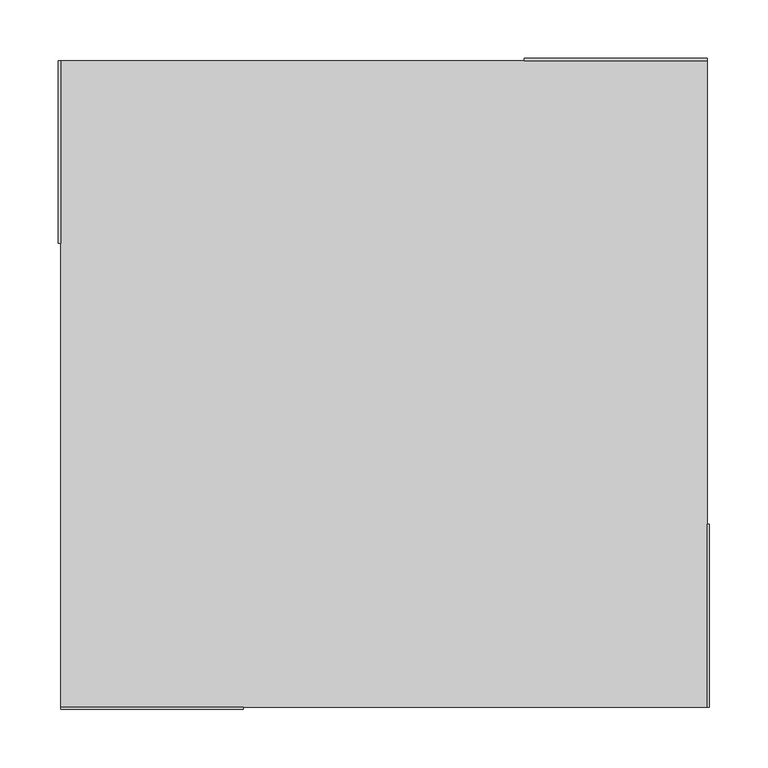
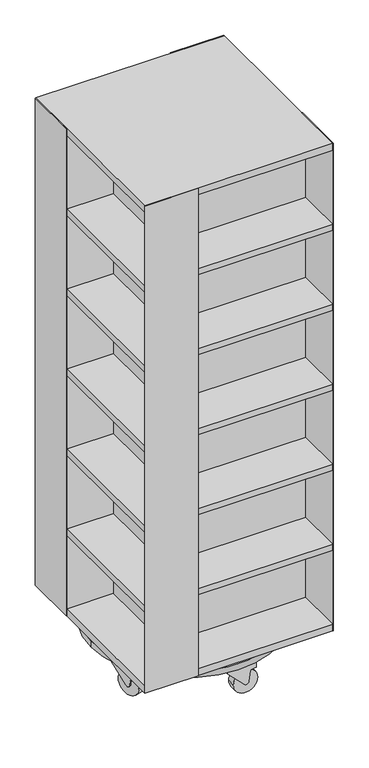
"""IFC4 building model written with IfcOpenShell, lengths in millimetres: furniture geometry, BK Library - Astrid : BK Library - Astrid."""

from ifc_helpers import new_model, si_unit, point, frame, frame_2d, origin, origin_2d, place, context, project, spatial, polyline, circle_curve, trimmed, segment, composite_curve, outline, extrude, source, transform, mapped, element, save


def furniture_fe416c3a(model_context):
    return source(origin(), model_context, "Body", "SweptSolid", [
        extrude(outline(composite_curve([segment(trimmed(circle_curve(origin_2d(), 152.516398), [point((-152.516398, 0.0))], [point((152.516398, 0.0))], False, "CARTESIAN"), True, "CONTINUOUS"), segment(trimmed(circle_curve(origin_2d(), 152.516398), [point((152.516398, 0.0))], [point((-152.516398, 0.0))], False, "CARTESIAN"), True, "CONTINUOUS")], self_intersect=False)), frame((0.0, 0.0, 116.0), z_axis=(0.0, 0.0, 1.0), x_axis=(1.0, 0.0, 0.0)), (0.0, 0.0, 1.0), 9.0),
        extrude(outline(composite_curve([segment(trimmed(circle_curve(frame_2d((228.1998061, -74.1779219)), 12.5248147), [point((224.3294255, -86.0897285))], [point((232.0701867, -62.2661152))], False, "CARTESIAN"), True, "CONTINUOUS"), segment(trimmed(circle_curve(frame_2d((228.1998061, -74.1779219)), 12.5248147), [point((232.0701867, -62.2661152))], [point((224.3294255, -86.0897285))], False, "CARTESIAN"), True, "CONTINUOUS")], self_intersect=False)), frame((0.0, 0.0, 87.7), z_axis=(0.0, 0.0, 1.0), x_axis=(1.0, 0.0, 0.0)), (0.0, 0.0, 1.0), 9.3),
        extrude(outline(composite_curve([segment(polyline([(0.0, -4.0), (-15.534626, -4.0), (-15.534626, 82.4985133), (-7.8331448, 82.4985133), (42.8326001, 31.6464633)]), True, "CONTINUOUS"), segment(trimmed(circle_curve(frame_2d((37.165374, 26.0)), 8.0), [point((42.8326001, 31.6464633))], [point((38.2375371, 18.0721714))], False, "CARTESIAN"), True, "CONTINUOUS"), segment(polyline([(38.2375371, 18.0721714), (6.2199498, 13.7420986)]), True, "CONTINUOUS"), segment(trimmed(circle_curve(frame_2d((6.4879906, 11.7601414)), 2.0), [point((6.2199498, 13.7420986))], [point((4.5183751, 12.1074378))], True, "CARTESIAN"), True, "CONTINUOUS"), segment(polyline([(4.5183751, 12.1074378), (1.9696155, -2.3472964)]), True, "CONTINUOUS"), segment(trimmed(circle_curve(frame_2d((0.0, -2.0)), 2.0), [point((1.9696155, -2.3472964))], [point((0.0, -4.0))], False, "CARTESIAN"), True, "CONTINUOUS")], self_intersect=False)), frame((262.2837087, -21.2071499, 72.665374), z_axis=(-0.9510565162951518, 0.3090169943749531, 0.0), x_axis=(0.0, 0.0, -1.0)), (0.0, 0.0, 1.0), 32.0),
        extrude(outline(composite_curve([segment(trimmed(circle_curve(frame_2d((0.0, -35.6947524)), 35.6947525), [point((0.0, -71.389505))], [point((0.0, 0.0))], False, "CARTESIAN"), True, "CONTINUOUS"), segment(trimmed(circle_curve(frame_2d((0.0, -35.6947524)), 35.6947525), [point((0.0, 0.0))], [point((0.0, -71.389505))], False, "CARTESIAN"), True, "CONTINUOUS")], self_intersect=False)), frame((239.446761, -78.5477759, 35.6872146), z_axis=(-0.9510565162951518, 0.3090169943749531, 0.0), x_axis=(0.0, 0.0, -1.0)), (0.0, 0.0, 1.0), 24.0),
        extrude(outline(composite_curve([segment(trimmed(circle_curve(frame_2d((141.0650141, 194.1086741)), 12.5248147), [point((151.1978021, 186.7467727))], [point((130.9322262, 201.4705755))], False, "CARTESIAN"), True, "CONTINUOUS"), segment(trimmed(circle_curve(frame_2d((141.0650141, 194.1086741)), 12.5248147), [point((130.9322262, 201.4705755))], [point((151.1978021, 186.7467727))], False, "CARTESIAN"), True, "CONTINUOUS")], self_intersect=False)), frame((0.0, 0.0, 87.7), z_axis=(0.0, 0.0, 1.0), x_axis=(1.0, 0.0, 0.0)), (0.0, 0.0, 1.0), 9.3),
        extrude(outline(composite_curve([segment(trimmed(circle_curve(frame_2d((0.0, -2.0)), 2.0), [point((0.0, -4.0))], [point((-1.9696155, -2.3472964))], False, "CARTESIAN"), True, "CONTINUOUS"), segment(polyline([(-1.9696155, -2.3472964), (-4.5183751, 12.1074377)]), True, "CONTINUOUS"), segment(trimmed(circle_curve(frame_2d((-6.4879906, 11.7601414)), 2.0), [point((-4.5183751, 12.1074377))], [point((-6.2199498, 13.7420985))], True, "CARTESIAN"), True, "CONTINUOUS"), segment(polyline([(-6.2199498, 13.7420985), (-38.2375371, 18.0721714)]), True, "CONTINUOUS"), segment(trimmed(circle_curve(frame_2d((-37.165374, 25.9999999)), 8.0), [point((-38.2375371, 18.0721714))], [point((-42.8326001, 31.6464633))], False, "CARTESIAN"), True, "CONTINUOUS"), segment(polyline([(-42.8326001, 31.6464633), (7.8331448, 82.4985133), (15.534626, 82.4985133), (15.534626, -4.0), (0.0, -4.0)]), True, "CONTINUOUS")], self_intersect=False)), frame((82.4101934, 217.0047167, 72.665374), z_axis=(0.5877852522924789, 0.8090169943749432, 0.0), x_axis=(0.0, 0.0, 1.0)), (0.0, 0.0, 1.0), 32.0),
        extrude(outline(composite_curve([segment(trimmed(circle_curve(frame_2d((0.0, -35.6947525)), 35.6947525), [point((0.0, -71.3895049))], [point((0.0, 0.0))], False, "CARTESIAN"), True, "CONTINUOUS"), segment(trimmed(circle_curve(frame_2d((0.0, -35.6947525)), 35.6947525), [point((0.0, 0.0))], [point((0.0, -71.3895049))], False, "CARTESIAN"), True, "CONTINUOUS")], self_intersect=False)), frame((134.5896465, 184.0383969, 35.6872146), z_axis=(0.5877852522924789, 0.8090169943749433, 0.0), x_axis=(0.0, 0.0, 1.0)), (0.0, 0.0, 1.0), 24.0),
        extrude(outline(composite_curve([segment(trimmed(circle_curve(frame_2d((-141.0168327, 194.14368)), 12.5248147), [point((-130.8840447, 201.5055814))], [point((-151.1496207, 186.7817786))], False, "CARTESIAN"), True, "CONTINUOUS"), segment(trimmed(circle_curve(frame_2d((-141.0168327, 194.14368)), 12.5248147), [point((-151.1496207, 186.7817786))], [point((-130.8840447, 201.5055814))], False, "CARTESIAN"), True, "CONTINUOUS")], self_intersect=False)), frame((0.0, 0.0, 87.7), z_axis=(0.0, 0.0, 1.0), x_axis=(1.0, 0.0, 0.0)), (0.0, 0.0, 1.0), 9.3),
        extrude(outline(composite_curve([segment(trimmed(circle_curve(frame_2d((0.0, -1.9999999)), 2.0), [point((0.0, -3.9999999))], [point((-1.9696155, -2.3472963))], False, "CARTESIAN"), True, "CONTINUOUS"), segment(polyline([(-1.9696155, -2.3472963), (-4.5183751, 12.1074379)]), True, "CONTINUOUS"), segment(trimmed(circle_curve(frame_2d((-6.4879906, 11.7601415)), 2.0), [point((-4.5183751, 12.1074379))], [point((-6.2199498, 13.7420986))], True, "CARTESIAN"), True, "CONTINUOUS"), segment(polyline([(-6.2199498, 13.7420986), (-38.2375371, 18.0721715)]), True, "CONTINUOUS"), segment(trimmed(circle_curve(frame_2d((-37.165374, 26.0000001)), 8.0), [point((-38.2375371, 18.0721715))], [point((-42.8326001, 31.6464634))], False, "CARTESIAN"), True, "CONTINUOUS"), segment(polyline([(-42.8326001, 31.6464634), (7.8331448, 82.4985134), (15.534626, 82.4985134), (15.534626, -3.9999999), (0.0, -3.9999999)]), True, "CONTINUOUS")], self_intersect=False)), frame((-180.9175997, 145.4348967, 72.665374), z_axis=(-0.5877852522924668, 0.8090169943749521, 0.0), x_axis=(0.0, 0.0, 1.0)), (0.0, 0.0, 1.0), 32.0),
        extrude(outline(composite_curve([segment(trimmed(circle_curve(frame_2d((0.0, -35.6947524)), 35.6947525), [point((0.0, -71.3895049))], [point((0.0, 0.0))], False, "CARTESIAN"), True, "CONTINUOUS"), segment(trimmed(circle_curve(frame_2d((0.0, -35.6947524)), 35.6947525), [point((0.0, 0.0))], [point((0.0, -71.3895049))], False, "CARTESIAN"), True, "CONTINUOUS")], self_intersect=False)), frame((-133.4404286, 184.8733526, 35.6872146), z_axis=(-0.5877852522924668, 0.8090169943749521, 0.0), x_axis=(0.0, 0.0, 1.0)), (0.0, 0.0, 1.0), 24.0),
        extrude(outline(composite_curve([segment(trimmed(circle_curve(frame_2d((-228.2182097, -74.1212812)), 12.5248147), [point((-232.0885903, -62.2094745))], [point((-224.3478291, -86.0330878))], False, "CARTESIAN"), True, "CONTINUOUS"), segment(trimmed(circle_curve(frame_2d((-228.2182097, -74.1212812)), 12.5248147), [point((-224.3478291, -86.0330878))], [point((-232.0885903, -62.2094745))], False, "CARTESIAN"), True, "CONTINUOUS")], self_intersect=False)), frame((0.0, 0.0, 87.7), z_axis=(0.0, 0.0, 1.0), x_axis=(1.0, 0.0, 0.0)), (0.0, 0.0, 1.0), 9.3),
        extrude(outline(composite_curve([segment(polyline([(0.0, -4.0), (-15.534626, -4.0), (-15.534626, 82.4985134), (-7.8331448, 82.4985134), (42.8326001, 31.6464633)]), True, "CONTINUOUS"), segment(trimmed(circle_curve(frame_2d((37.165374, 26.0)), 8.0), [point((42.8326001, 31.6464633))], [point((38.2375371, 18.0721714))], False, "CARTESIAN"), True, "CONTINUOUS"), segment(polyline([(38.2375371, 18.0721714), (6.2199498, 13.7420986)]), True, "CONTINUOUS"), segment(trimmed(circle_curve(frame_2d((6.4879906, 11.7601414)), 2.0), [point((6.2199498, 13.7420986))], [point((4.5183751, 12.1074378))], True, "CARTESIAN"), True, "CONTINUOUS"), segment(polyline([(4.5183751, 12.1074378), (1.9696155, -2.3472963)]), True, "CONTINUOUS"), segment(trimmed(circle_curve(frame_2d((0.0, -1.9999999)), 2.0), [point((1.9696155, -2.3472963))], [point((0.0, -4.0))], False, "CARTESIAN"), True, "CONTINUOUS")], self_intersect=False)), frame((-224.6572276, -137.0095512, 72.665374), z_axis=(0.9510565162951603, 0.3090169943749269, 0.0), x_axis=(0.0, 0.0, -1.0)), (0.0, 0.0, 1.0), 32.0),
        extrude(outline(composite_curve([segment(trimmed(circle_curve(frame_2d((0.0, -35.6947524)), 35.6947525), [point((0.0, -71.3895049))], [point((0.0, 0.0))], False, "CARTESIAN"), True, "CONTINUOUS"), segment(trimmed(circle_curve(frame_2d((0.0, -35.6947524)), 35.6947525), [point((0.0, 0.0))], [point((0.0, -71.3895049))], False, "CARTESIAN"), True, "CONTINUOUS")], self_intersect=False)), frame((-239.8857232, -77.1967893, 35.6872146), z_axis=(0.9510565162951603, 0.30901699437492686, 0.0), x_axis=(0.0, 0.0, -1.0)), (0.0, 0.0, 1.0), 24.0),
        extrude(outline(composite_curve([segment(trimmed(circle_curve(origin_2d(), 275.0), [point((-275.0, 0.0))], [point((275.0, 0.0))], False, "CARTESIAN"), True, "CONTINUOUS"), segment(trimmed(circle_curve(origin_2d(), 275.0), [point((275.0, 0.0))], [point((-275.0, 0.0))], False, "CARTESIAN"), True, "CONTINUOUS")], self_intersect=False)), frame((0.0, 0.0, 97.0075378), z_axis=(0.0, 0.0, 1.0), x_axis=(1.0, 0.0, 0.0)), (0.0, 0.0, 1.0), 18.9924622),
        extrude(outline(polyline([(-279.5, 120.5), (-279.5, 277.5), (-277.5, 277.5), (-277.5, 120.5), (-279.5, 120.5)])), frame((0.0, 0.0, 123.0), z_axis=(0.0, 0.0, 1.0), x_axis=(1.0, 0.0, 0.0)), (0.0, 0.0, 1.0), 1520.0),
        extrude(outline(polyline([(120.5, 279.5), (277.5, 279.5), (277.5, 277.5), (120.5, 277.5), (120.5, 279.5)])), frame((0.0, 0.0, 123.0), z_axis=(0.0, 0.0, 1.0), x_axis=(1.0, 0.0, 0.0)), (0.0, 0.0, 1.0), 1520.0),
        extrude(outline(polyline([(279.5, -120.5), (279.5, -277.5), (277.5, -277.5), (277.5, -120.5), (279.5, -120.5)])), frame((0.0, 0.0, 123.0), z_axis=(0.0, 0.0, 1.0), x_axis=(1.0, 0.0, 0.0)), (0.0, 0.0, 1.0), 1520.0),
        extrude(outline(polyline([(-120.5, -279.5), (-277.5, -279.5), (-277.5, -277.5), (-120.5, -277.5), (-120.5, -279.5)])), frame((0.0, 0.0, 123.0), z_axis=(0.0, 0.0, 1.0), x_axis=(1.0, 0.0, 0.0)), (0.0, 0.0, 1.0), 1520.0),
        extrude(outline(polyline([(-275.5, 139.5), (120.5, 139.5), (120.5, 275.5), (139.5, 275.5), (139.5, -120.5), (275.5, -120.5), (275.5, -139.5), (-120.5, -139.5), (-120.5, -275.5), (-139.5, -275.5), (-139.5, 120.5), (-275.5, 120.5), (-275.5, 139.5)])), frame((0.0, 0.0, 144.0), z_axis=(0.0, 0.0, 1.0), x_axis=(1.0, 0.0, 0.0)), (0.0, 0.0, 1.0), 1478.0),
        extrude(outline(composite_curve([segment(trimmed(circle_curve(frame_2d((-0.0297778, -239.953151)), 12.5248147), [point((-12.5545925, -239.953151))], [point((12.4950369, -239.953151))], False, "CARTESIAN"), True, "CONTINUOUS"), segment(trimmed(circle_curve(frame_2d((-0.0297778, -239.953151)), 12.5248147), [point((12.4950369, -239.953151))], [point((-12.5545925, -239.953151))], False, "CARTESIAN"), True, "CONTINUOUS")], self_intersect=False)), frame((0.0, 0.0, 87.7), z_axis=(0.0, 0.0, 1.0), x_axis=(1.0, 0.0, 0.0)), (0.0, 0.0, 1.0), 9.3),
        extrude(outline(composite_curve([segment(polyline([(72.665374, 64.8809252), (88.2, 64.8809252), (88.2, -21.6175881), (80.4985188, -21.6175881), (29.8327739, 29.2344619)]), True, "CONTINUOUS"), segment(trimmed(circle_curve(frame_2d((35.5, 34.8809252)), 8.0), [point((29.8327739, 29.2344619))], [point((34.4278369, 42.8087538))], False, "CARTESIAN"), True, "CONTINUOUS"), segment(polyline([(34.4278369, 42.8087538), (66.4454242, 47.1388267)]), True, "CONTINUOUS"), segment(trimmed(circle_curve(frame_2d((66.1773834, 49.1207838)), 2.0), [point((66.4454242, 47.1388267))], [point((68.1469989, 48.7734874))], True, "CARTESIAN"), True, "CONTINUOUS"), segment(polyline([(68.1469989, 48.7734874), (70.6957585, 63.2282216)]), True, "CONTINUOUS"), segment(trimmed(circle_curve(frame_2d((72.665374, 62.8809252)), 2.0), [point((70.6957585, 63.2282216))], [point((72.665374, 64.8809252))], False, "CARTESIAN"), True, "CONTINUOUS")], self_intersect=False)), frame((0.0, -256.0, 0.0), z_axis=(0.0, 1.0, 0.0), x_axis=(0.0, 0.0, 1.0)), (0.0, 0.0, 1.0), 32.0),
        extrude(outline(composite_curve([segment(trimmed(circle_curve(frame_2d((35.6872146, 34.9844968)), 35.6947525), [point((35.6872146, 70.6792492))], [point((35.6872146, -0.7102557))], False, "CARTESIAN"), True, "CONTINUOUS"), segment(trimmed(circle_curve(frame_2d((35.6872146, 34.9844968)), 35.6947525), [point((35.6872146, -0.7102557))], [point((35.6872146, 70.6792492))], False, "CARTESIAN"), True, "CONTINUOUS")], self_intersect=False)), frame((0.0, -252.0, 0.0), z_axis=(0.0, 1.0, 0.0), x_axis=(0.0, 0.0, 1.0)), (0.0, 0.0, 1.0), 24.0),
        extrude(outline(polyline([(277.5, 277.5), (277.5, -277.5), (-277.5, -277.5), (-277.5, 277.5), (277.5, 277.5)])), frame((0.0, 0.0, 1123.0), z_axis=(0.0, 0.0, 1.0), x_axis=(1.0, 0.0, 0.0)), (0.0, 0.0, 1.0), 19.0),
        extrude(outline(polyline([(277.5, 277.5), (277.5, -277.5), (-277.5, -277.5), (-277.5, 277.5), (277.5, 277.5)])), frame((0.0, 0.0, 873.5), z_axis=(0.0, 0.0, 1.0), x_axis=(1.0, 0.0, 0.0)), (0.0, 0.0, 1.0), 19.0),
        extrude(outline(polyline([(277.5, 277.5), (277.5, -277.5), (-277.5, -277.5), (-277.5, 277.5), (277.5, 277.5)])), frame((0.0, 0.0, 374.5), z_axis=(0.0, 0.0, 1.0), x_axis=(1.0, 0.0, 0.0)), (0.0, 0.0, 1.0), 19.0),
        extrude(outline(polyline([(277.5, 277.5), (277.5, -277.5), (-277.5, -277.5), (-277.5, 277.5), (277.5, 277.5)])), frame((0.0, 0.0, 123.0), z_axis=(0.0, 0.0, 1.0), x_axis=(1.0, 0.0, 0.0)), (0.0, 0.0, 1.0), 21.0),
        extrude(outline(polyline([(277.5, 277.5), (277.5, -277.5), (-277.5, -277.5), (-277.5, 277.5), (277.5, 277.5)])), frame((0.0, 0.0, 1622.0), z_axis=(0.0, 0.0, 1.0), x_axis=(1.0, 0.0, 0.0)), (0.0, 0.0, 1.0), 21.0),
        extrude(outline(polyline([(277.5, 277.5), (277.5, -277.5), (-277.5, -277.5), (-277.5, 277.5), (277.5, 277.5)])), frame((0.0, 0.0, 624.0), z_axis=(0.0, 0.0, 1.0), x_axis=(1.0, 0.0, 0.0)), (0.0, 0.0, 1.0), 19.0),
        extrude(outline(polyline([(277.5, 277.5), (277.5, -277.5), (-277.5, -277.5), (-277.5, 277.5), (277.5, 277.5)])), frame((0.0, 0.0, 1372.5), z_axis=(0.0, 0.0, 1.0), x_axis=(1.0, 0.0, 0.0)), (0.0, 0.0, 1.0), 19.0),
    ])


if __name__ == "__main__":
    model = new_model("IFC4")
    model_context = context("Model", 3, world=origin())
    ifc_project = project(units=[si_unit("LENGTHUNIT", "METRE", prefix="MILLI")], contexts=[model_context])
    site = spatial("IfcSite", under=ifc_project)
    building = spatial("IfcBuilding", under=site)
    placement = place(None, origin())
    furniture_shape = furniture_fe416c3a(model_context)
    element("IfcFurniture", 1, ObjectType="BK Library - Astrid : BK Library - Astrid", at=placement, inside=building, context=model_context, shape_type="MappedRepresentation", body=[
        mapped(furniture_shape, transform((0.0, 0.0, 0.0), x_axis=(1.0, 0.0, 0.0), y_axis=(0.0, 1.0, 0.0), z_axis=(0.0, 0.0, 1.0))),
    ])
    save(model, "model.ifc")
